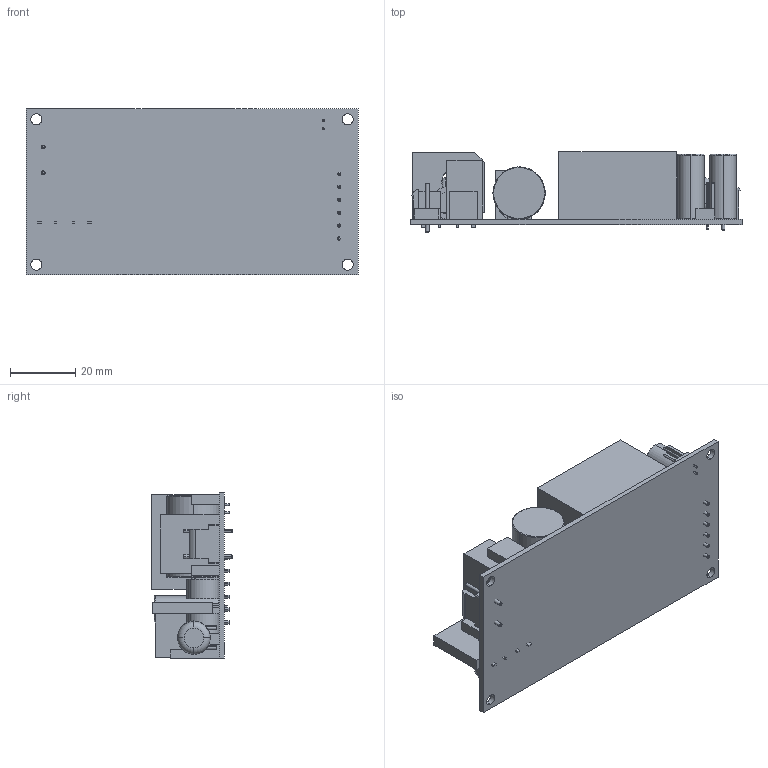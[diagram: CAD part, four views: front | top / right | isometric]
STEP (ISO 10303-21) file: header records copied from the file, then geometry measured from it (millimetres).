
FILE_DESCRIPTION (( 'STEP AP203' ), '1' );
FILE_NAME ('ECP180PS.STEP', '2013-09-16T07:34:44', ( 'titanlin' ), ( '' ), 'SwSTEP 2.0', 'SolidWorks 2010', '' );
FILE_SCHEMA (( 'CONFIG_CONTROL_DESIGN' ));
Length unit declared in the file: millimetre
Products named in the file (15): Cap-8-20; 2X4 PCB; 3.96 mm Locking Header 3-2pin; ECP180PS; BRIDGE 18X22; x-cap 18X11; FUSE; 3.96 mm Locking Header 6pin; Common-choke; 2-2 2.54mm; TO-220; Cap-16-25; LP2920; ATQ-25; Y-Cap
Assembly tree (22 placements, depth 2):
  ECP180PS
    Y-Cap  x6
    Cap-8-20  x2
    3.96 mm Locking Header 6pin
    FUSE  x2
    2X4 PCB
    2-2 2.54mm
    3.96 mm Locking Header 3-2pin
    x-cap 18X11
    TO-220
    LP2920
    Common-choke  x2
    Cap-16-25
    BRIDGE 18X22
    ATQ-25
Bounding box: 101.6 x 24.66 x 50.8 mm (x, y, z)
Volume: 54245.9 mm3; surface area: 29030.6 mm2
Topology: 22 solids, 22 shells, 408 faces, 900 edges, 566 vertices
Faces by surface type: plane 189, cylinder 113, torus 104, bspline 2
Entity records: 10429 total; most frequent: DIRECTION 1616, CARTESIAN_POINT 1536, ORIENTED_EDGE 1360, EDGE_CURVE 680, AXIS2_PLACEMENT_3D 618, VERTEX_POINT 434, VECTOR 380, LINE 380
